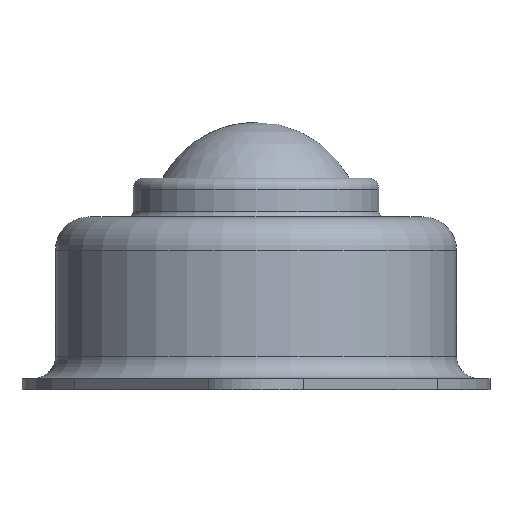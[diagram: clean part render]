
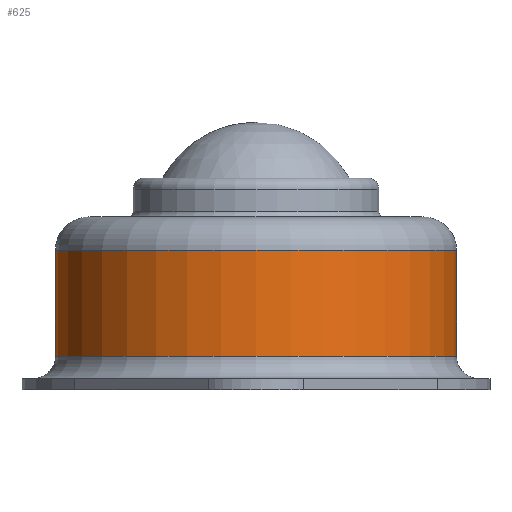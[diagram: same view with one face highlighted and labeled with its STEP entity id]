
A CAD part, front view. The second image highlights one B-rep face of the part: STEP entity #625.
In plain terms, the highlighted cylindrical face has radius 18 mm (diameter 36 mm), a full revolution.
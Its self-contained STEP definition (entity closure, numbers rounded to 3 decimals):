
#76=FACE_OUTER_BOUND('',#118,.T.);
#118=EDGE_LOOP('',(#569,#570,#571,#572,#573,#574,#575,#576));
#142=LINE('',#1169,#165);
#165=VECTOR('',#971,18.);
#228=CIRCLE('',#739,18.);
#229=CIRCLE('',#740,18.);
#230=CIRCLE('',#741,18.);
#232=CIRCLE('',#744,18.);
#233=CIRCLE('',#745,18.);
#234=CIRCLE('',#746,18.);
#299=VERTEX_POINT('',#1156);
#300=VERTEX_POINT('',#1157);
#301=VERTEX_POINT('',#1159);
#302=VERTEX_POINT('',#1164);
#303=VERTEX_POINT('',#1165);
#304=VERTEX_POINT('',#1167);
#389=EDGE_CURVE('',#299,#300,#228,.T.);
#390=EDGE_CURVE('',#301,#299,#229,.T.);
#391=EDGE_CURVE('',#300,#301,#230,.T.);
#393=EDGE_CURVE('',#302,#303,#232,.T.);
#394=EDGE_CURVE('',#304,#302,#233,.T.);
#395=EDGE_CURVE('',#304,#301,#142,.T.);
#396=EDGE_CURVE('',#303,#304,#234,.T.);
#569=ORIENTED_EDGE('',*,*,#393,.F.);
#570=ORIENTED_EDGE('',*,*,#394,.F.);
#571=ORIENTED_EDGE('',*,*,#395,.T.);
#572=ORIENTED_EDGE('',*,*,#390,.T.);
#573=ORIENTED_EDGE('',*,*,#389,.T.);
#574=ORIENTED_EDGE('',*,*,#391,.T.);
#575=ORIENTED_EDGE('',*,*,#395,.F.);
#576=ORIENTED_EDGE('',*,*,#396,.F.);
#594=CYLINDRICAL_SURFACE('',#743,18.);
#625=ADVANCED_FACE('',(#76),#594,.T.);
#739=AXIS2_PLACEMENT_3D('',#1158,#957,#958);
#740=AXIS2_PLACEMENT_3D('',#1160,#959,#960);
#741=AXIS2_PLACEMENT_3D('',#1161,#961,#962);
#743=AXIS2_PLACEMENT_3D('',#1163,#965,#966);
#744=AXIS2_PLACEMENT_3D('',#1166,#967,#968);
#745=AXIS2_PLACEMENT_3D('',#1168,#969,#970);
#746=AXIS2_PLACEMENT_3D('',#1170,#972,#973);
#957=DIRECTION('center_axis',(0.,0.,-1.));
#958=DIRECTION('ref_axis',(1.,0.,0.));
#959=DIRECTION('center_axis',(0.,0.,-1.));
#960=DIRECTION('ref_axis',(1.,0.,0.));
#961=DIRECTION('center_axis',(0.,0.,-1.));
#962=DIRECTION('ref_axis',(1.,0.,0.));
#965=DIRECTION('center_axis',(0.,0.,-1.));
#966=DIRECTION('ref_axis',(0.,1.,0.));
#967=DIRECTION('center_axis',(0.,0.,-1.));
#968=DIRECTION('ref_axis',(1.,0.,0.));
#969=DIRECTION('center_axis',(0.,0.,-1.));
#970=DIRECTION('ref_axis',(1.,0.,0.));
#971=DIRECTION('',(0.,0.,1.));
#972=DIRECTION('center_axis',(0.,0.,-1.));
#973=DIRECTION('ref_axis',(1.,0.,0.));
#1156=CARTESIAN_POINT('',(0.,18.,12.5));
#1157=CARTESIAN_POINT('',(18.,0.,12.5));
#1158=CARTESIAN_POINT('Origin',(0.,0.,12.5));
#1159=CARTESIAN_POINT('',(0.,-18.,12.5));
#1160=CARTESIAN_POINT('Origin',(0.,0.,12.5));
#1161=CARTESIAN_POINT('Origin',(0.,0.,12.5));
#1163=CARTESIAN_POINT('Origin',(0.,0.,7.75));
#1164=CARTESIAN_POINT('',(0.,18.,3.));
#1165=CARTESIAN_POINT('',(18.,0.,3.));
#1166=CARTESIAN_POINT('Origin',(0.,0.,3.));
#1167=CARTESIAN_POINT('',(0.,-18.,3.));
#1168=CARTESIAN_POINT('Origin',(0.,0.,3.));
#1169=CARTESIAN_POINT('',(0.,-18.,7.75));
#1170=CARTESIAN_POINT('Origin',(0.,0.,3.));
